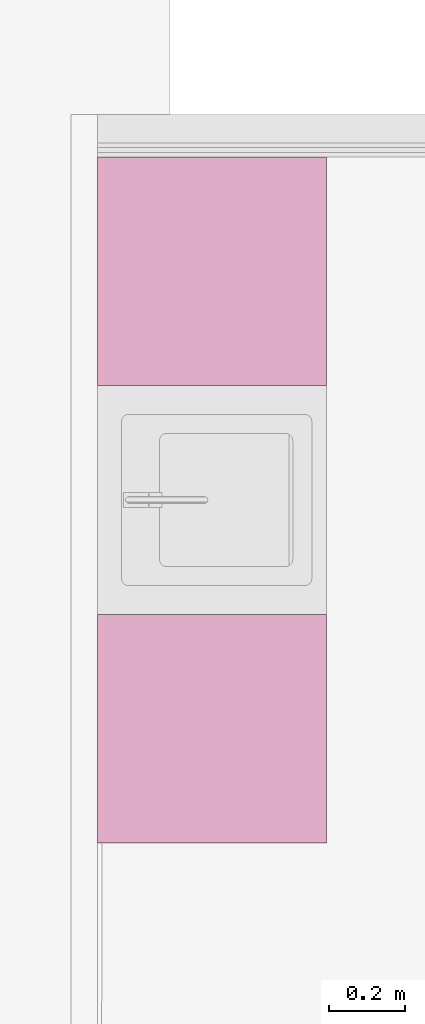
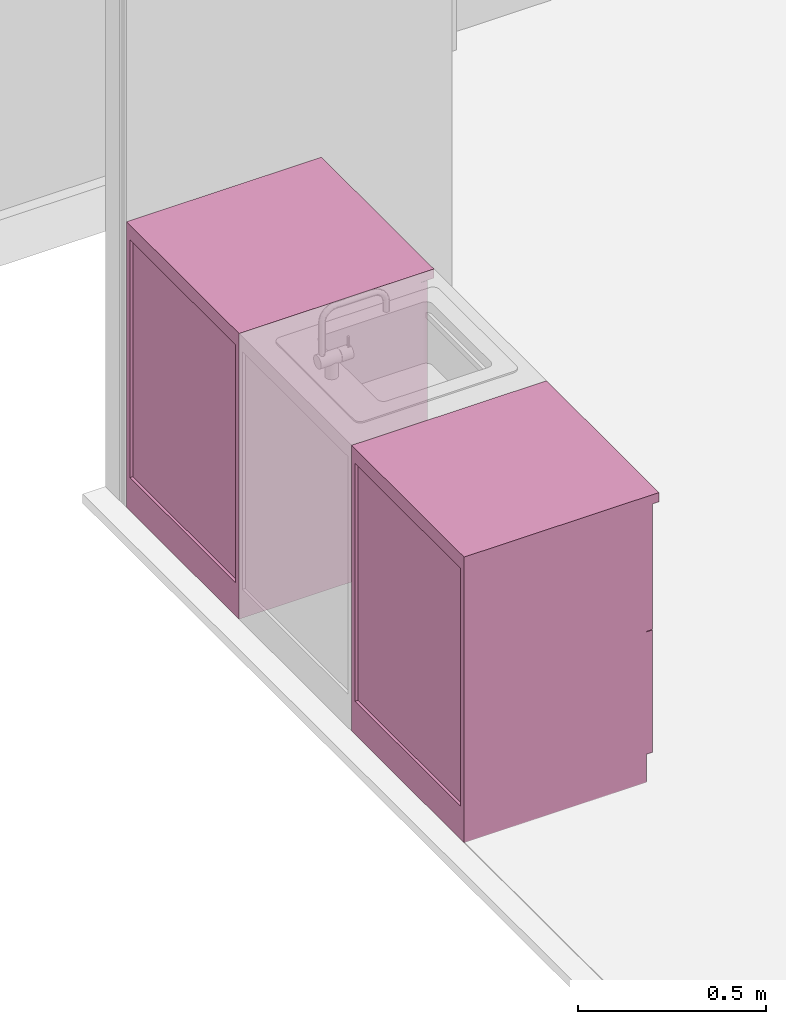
# One storey, part 24 of 25: 2 furnishings.
"""IFC2X3 building model written with IfcOpenShell, lengths in millimetres."""

from ifc_helpers import new_model, entity, si_unit, converted_unit, derived_unit, money_unit, direction, frame, origin_with_axes, place, context, subcontext, project, spatial, faceted_brep, type_object, element, save


model = new_model("IFC2X3")

# Units and contexts
model_context = context("Model", 3, precision=0.01, world=origin_with_axes(), true_north=direction((0.0, 1.0)))
body_context = subcontext(model_context, "Body", "Model", "MODEL_VIEW")
ifc_project = project(units=[si_unit("LENGTHUNIT", "METRE", prefix="MILLI"), si_unit("AREAUNIT", "SQUARE_METRE"), si_unit("VOLUMEUNIT", "CUBIC_METRE"), converted_unit("PLANEANGLEUNIT", "DEGREE", entity("IfcPlaneAngleMeasure", 0.0174532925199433), si_unit("PLANEANGLEUNIT", "RADIAN"), dimensions=[0, 0, 0, 0, 0, 0, 0]), money_unit("EUR"), converted_unit("TIMEUNIT", "Year", entity("IfcTimeMeasure", 31557600.0), si_unit("TIMEUNIT", "SECOND"), dimensions=[0, 0, 1, 0, 0, 0, 0]), si_unit("MASSUNIT", "GRAM", prefix="KILO"), si_unit("THERMODYNAMICTEMPERATUREUNIT", "DEGREE_CELSIUS"), si_unit("LUMINOUSINTENSITYUNIT", "LUMEN"), si_unit("ENERGYUNIT", "JOULE", prefix="MEGA"), derived_unit("THERMALCONDUCTANCEUNIT", [(si_unit("POWERUNIT", "WATT"), 1), (si_unit("LENGTHUNIT", "METRE"), -1), (si_unit("THERMODYNAMICTEMPERATUREUNIT", "KELVIN"), -1)]), derived_unit("SPECIFICHEATCAPACITYUNIT", [(si_unit("ENERGYUNIT", "JOULE"), 1), (si_unit("MASSUNIT", "GRAM", prefix="KILO"), -1), (si_unit("THERMODYNAMICTEMPERATUREUNIT", "KELVIN"), -1)]), derived_unit("MASSDENSITYUNIT", [(si_unit("MASSUNIT", "GRAM", prefix="KILO"), 1), (si_unit("VOLUMEUNIT", "CUBIC_METRE"), -1)])], contexts=[model_context])

# Site, building, storey
site_placement = place(None, origin_with_axes())
site = spatial("IfcSite", under=ifc_project, at=site_placement, Name="<site naam>", CompositionType="ELEMENT")
building_placement = place(site_placement, origin_with_axes())
building = spatial("IfcBuilding", under=site, at=building_placement, Name="<Naam gebouw>", CompositionType="ELEMENT")
storey_placement = place(building_placement, frame((0.0, 0.0, 9563.0), z_axis=(0.0, 0.0, 1.0), x_axis=(1.0, 0.0, 0.0)))
storey = spatial("IfcBuildingStorey", under=building, at=storey_placement, Name="03 3e tussenverdieping", CompositionType="ELEMENT", Elevation=9563.0)

# Furnishings
furnishing_element_type = type_object("IfcFurnishingElementType", Name="Onderkast recht 27")
furnishing_1_placement = place(storey_placement, frame((52135.00000000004, 4572.500000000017, 0.0), z_axis=(0.0, 0.0, 1.0), x_axis=(0.0, 1.0, 0.0)))
element("IfcFurnishingElement", 1, at=furnishing_1_placement, inside=storey, type_object=furnishing_element_type, Name="73_heg_Lege", context=body_context, shape_type="Brep", body=[
    faceted_brep([(0.0, -600.0, 900.0), (0.0, -600.0, 930.0), (-600.0, -600.0, 930.0), (-600.0, -600.0, 900.0), (0.0, 0.0, 900.0), (0.0, 0.0, 930.0), (-600.0, 0.0, 930.0), (-600.0, 0.0, 900.0)], [[[0, 1, 2, 3]], [[4, 5, 1, 0]], [[1, 5, 6, 2]], [[3, 2, 6, 7]], [[0, 3, 7, 4]], [[7, 6, 5, 4]]]),
    faceted_brep([(-1.0, -562.0, 91.0), (-1.0, -580.0, 91.0), (-599.0, -580.0, 91.0), (-599.0, -562.0, 91.0), (-1.0, -562.0, 899.0), (-1.0, -579.9999999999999, 899.0), (-599.0, -579.9999999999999, 899.0), (-599.0, -562.0, 899.0)], [[[0, 1, 2, 3]], [[4, 5, 1, 0]], [[1, 5, 6, 2]], [[3, 2, 6, 7]], [[0, 3, 7, 4]], [[7, 6, 5, 4]]]),
    faceted_brep([(-18.0, -562.0, 90.0), (-18.0, -562.0, 108.0), (-582.0, -562.0, 108.0), (-582.0, -562.0, 90.0), (-18.0, 0.0, 90.0), (-18.0, 0.0, 108.0), (-582.0, 0.0, 108.0), (-582.0, 0.0, 90.0)], [[[0, 1, 2, 3]], [[4, 5, 1, 0]], [[1, 5, 6, 2]], [[3, 2, 6, 7]], [[0, 3, 7, 4]], [[7, 6, 5, 4]]]),
    faceted_brep([(-18.0, -562.0, 882.0), (-582.0, -562.0, 882.0), (-582.0, -502.0, 882.0), (-18.0, -502.0, 882.0), (-18.0, -562.0, 900.0), (-582.0, -562.0, 900.0), (-582.0, -502.0, 900.0), (-18.0, -502.0, 900.0)], [[[0, 1, 2, 3]], [[4, 5, 1, 0]], [[1, 5, 6, 2]], [[3, 2, 6, 7]], [[0, 3, 7, 4]], [[7, 6, 5, 4]]]),
    faceted_brep([(-582.0, 0.0, 882.0), (-18.0, 0.0, 882.0), (-18.0, -60.0, 882.0), (-582.0, -60.0, 882.0), (-582.0, 0.0, 900.0), (-18.0, 0.0, 900.0), (-18.0, -60.0, 900.0), (-582.0, -60.0, 900.0)], [[[0, 1, 2, 3]], [[4, 5, 1, 0]], [[1, 5, 6, 2]], [[3, 2, 6, 7]], [[0, 3, 7, 4]], [[7, 6, 5, 4]]]),
    faceted_brep([(0.0, 0.0, 90.0), (0.0, 0.0, 900.0), (0.0, -562.0, 900.0), (0.0, -562.0, 90.0), (-18.0, 0.0, 90.0), (-18.0, 0.0, 900.0), (-18.0, -562.0, 900.0), (-18.0, -562.0, 90.0)], [[[0, 1, 2, 3]], [[4, 5, 1, 0]], [[1, 5, 6, 2]], [[3, 2, 6, 7]], [[0, 3, 7, 4]], [[7, 6, 5, 4]]]),
    faceted_brep([(-600.0, -562.0, 90.0), (-600.0, -562.0, 900.0), (-600.0, 0.0, 900.0), (-600.0, 0.0, 90.0), (-582.0, -562.0, 90.0), (-582.0, -562.0, 900.0), (-582.0, 0.0, 900.0), (-582.0, 0.0, 90.0)], [[[0, 1, 2, 3]], [[4, 5, 1, 0]], [[1, 5, 6, 2]], [[3, 2, 6, 7]], [[0, 3, 7, 4]], [[7, 6, 5, 4]]]),
    faceted_brep([(-582.0, -9.0, 108.0), (-582.0, -9.0, 882.0), (-18.00000000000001, -9.0, 882.0), (-18.00000000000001, -9.0, 108.0), (-582.0, -18.0, 108.0), (-582.0, -18.0, 882.0), (-18.00000000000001, -18.0, 882.0), (-18.00000000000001, -18.0, 108.0)], [[[0, 1, 2, 3]], [[4, 5, 1, 0]], [[1, 5, 6, 2]], [[3, 2, 6, 7]], [[0, 3, 7, 4]], [[7, 6, 5, 4]]]),
    faceted_brep([(0.0, -562.0, 0.0), (0.0, -562.0, 90.0), (-600.0, -562.0, 90.0), (-600.0, -562.0, 0.0), (0.0, 0.0, 0.0), (0.0, 0.0, 90.0), (-600.0, 0.0, 90.0), (-600.0, 0.0, 0.0)], [[[0, 1, 2, 3]], [[4, 5, 1, 0]], [[1, 5, 6, 2]], [[3, 2, 6, 7]], [[0, 3, 7, 4]], [[7, 6, 5, 4]]]),
])
furnishing_2_placement = place(storey_placement, frame((52135.00000000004, 3372.500000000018, 0.0), z_axis=(0.0, 0.0, 1.0), x_axis=(0.0, 1.0, 0.0)))
element("IfcFurnishingElement", 2, at=furnishing_2_placement, inside=storey, type_object=furnishing_element_type, Name="73_heg_Lege", context=body_context, shape_type="Brep", body=[
    faceted_brep([(0.0, -600.0, 900.0), (0.0, -600.0, 930.0), (-600.0, -600.0, 930.0), (-600.0, -600.0, 900.0), (0.0, 0.0, 900.0), (0.0, 0.0, 930.0), (-600.0, 0.0, 930.0), (-600.0, 0.0, 900.0)], [[[0, 1, 2, 3]], [[4, 5, 1, 0]], [[1, 5, 6, 2]], [[3, 2, 6, 7]], [[0, 3, 7, 4]], [[7, 6, 5, 4]]]),
    faceted_brep([(-18.0, -562.0, 481.0), (-18.0, -562.0, 499.0), (-582.0, -562.0, 499.0), (-582.0, -562.0, 481.0), (-18.0, -18.0, 481.0), (-18.0, -18.0, 499.0), (-582.0, -18.0, 499.0), (-582.0, -18.0, 481.0)], [[[0, 1, 2, 3]], [[4, 5, 1, 0]], [[1, 5, 6, 2]], [[3, 2, 6, 7]], [[0, 3, 7, 4]], [[7, 6, 5, 4]]]),
    faceted_brep([(-1.0, -562.0, 91.0), (-1.0, -580.0, 91.0), (-599.0, -580.0, 91.0), (-599.0, -562.0, 91.0), (-1.0, -562.0, 489.0), (-1.0, -580.0, 489.0), (-599.0, -580.0, 489.0), (-599.0, -562.0, 489.0)], [[[0, 1, 2, 3]], [[4, 5, 1, 0]], [[1, 5, 6, 2]], [[3, 2, 6, 7]], [[0, 3, 7, 4]], [[7, 6, 5, 4]]]),
    faceted_brep([(-1.0, -562.0, 491.0), (-1.0, -580.0, 491.0), (-599.0, -580.0, 491.0), (-599.0, -562.0, 491.0), (-1.0, -562.0, 899.0), (-1.0, -580.0, 899.0), (-599.0, -580.0, 899.0), (-599.0, -562.0, 899.0)], [[[0, 1, 2, 3]], [[4, 5, 1, 0]], [[1, 5, 6, 2]], [[3, 2, 6, 7]], [[0, 3, 7, 4]], [[7, 6, 5, 4]]]),
    faceted_brep([(-18.0, -562.0, 90.0), (-18.0, -562.0, 108.0), (-582.0, -562.0, 108.0), (-582.0, -562.0, 90.0), (-18.0, 0.0, 90.0), (-18.0, 0.0, 108.0), (-582.0, 0.0, 108.0), (-582.0, 0.0, 90.0)], [[[0, 1, 2, 3]], [[4, 5, 1, 0]], [[1, 5, 6, 2]], [[3, 2, 6, 7]], [[0, 3, 7, 4]], [[7, 6, 5, 4]]]),
    faceted_brep([(-18.0, -562.0, 882.0), (-582.0, -562.0, 882.0), (-582.0, -502.0, 882.0), (-18.0, -502.0, 882.0), (-18.0, -562.0, 900.0), (-582.0, -562.0, 900.0), (-582.0, -502.0, 900.0), (-18.0, -502.0, 900.0)], [[[0, 1, 2, 3]], [[4, 5, 1, 0]], [[1, 5, 6, 2]], [[3, 2, 6, 7]], [[0, 3, 7, 4]], [[7, 6, 5, 4]]]),
    faceted_brep([(-582.0, 0.0, 882.0), (-18.0, 0.0, 882.0), (-18.0, -60.0, 882.0), (-582.0, -60.0, 882.0), (-582.0, 0.0, 900.0), (-18.0, 0.0, 900.0), (-18.0, -60.0, 900.0), (-582.0, -60.0, 900.0)], [[[0, 1, 2, 3]], [[4, 5, 1, 0]], [[1, 5, 6, 2]], [[3, 2, 6, 7]], [[0, 3, 7, 4]], [[7, 6, 5, 4]]]),
    faceted_brep([(0.0, 0.0, 90.0), (0.0, 0.0, 900.0), (0.0, -562.0, 900.0), (0.0, -562.0, 90.0), (-18.0, 0.0, 90.0), (-18.0, 0.0, 900.0), (-18.0, -562.0, 900.0), (-18.0, -562.0, 90.0)], [[[0, 1, 2, 3]], [[4, 5, 1, 0]], [[1, 5, 6, 2]], [[3, 2, 6, 7]], [[0, 3, 7, 4]], [[7, 6, 5, 4]]]),
    faceted_brep([(-600.0, -562.0, 90.0), (-600.0, -562.0, 900.0), (-600.0, 0.0, 900.0), (-600.0, 0.0, 90.0), (-582.0, -562.0, 90.0), (-582.0, -562.0, 900.0), (-582.0, 0.0, 900.0), (-582.0, 0.0, 90.0)], [[[0, 1, 2, 3]], [[4, 5, 1, 0]], [[1, 5, 6, 2]], [[3, 2, 6, 7]], [[0, 3, 7, 4]], [[7, 6, 5, 4]]]),
    faceted_brep([(-582.0, -9.0, 108.0), (-582.0, -9.0, 882.0), (-18.00000000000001, -9.0, 882.0), (-18.00000000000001, -9.0, 108.0), (-582.0, -18.0, 108.0), (-582.0, -18.0, 882.0), (-18.00000000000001, -18.0, 882.0), (-18.00000000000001, -18.0, 108.0)], [[[0, 1, 2, 3]], [[4, 5, 1, 0]], [[1, 5, 6, 2]], [[3, 2, 6, 7]], [[0, 3, 7, 4]], [[7, 6, 5, 4]]]),
    faceted_brep([(0.0, -562.0, 0.0), (0.0, -562.0, 90.0), (-600.0, -562.0, 90.0), (-600.0, -562.0, 0.0), (0.0, 0.0, 0.0), (0.0, 0.0, 90.0), (-600.0, 0.0, 90.0), (-600.0, 0.0, 0.0)], [[[0, 1, 2, 3]], [[4, 5, 1, 0]], [[1, 5, 6, 2]], [[3, 2, 6, 7]], [[0, 3, 7, 4]], [[7, 6, 5, 4]]]),
])

save(model, "model.ifc")
